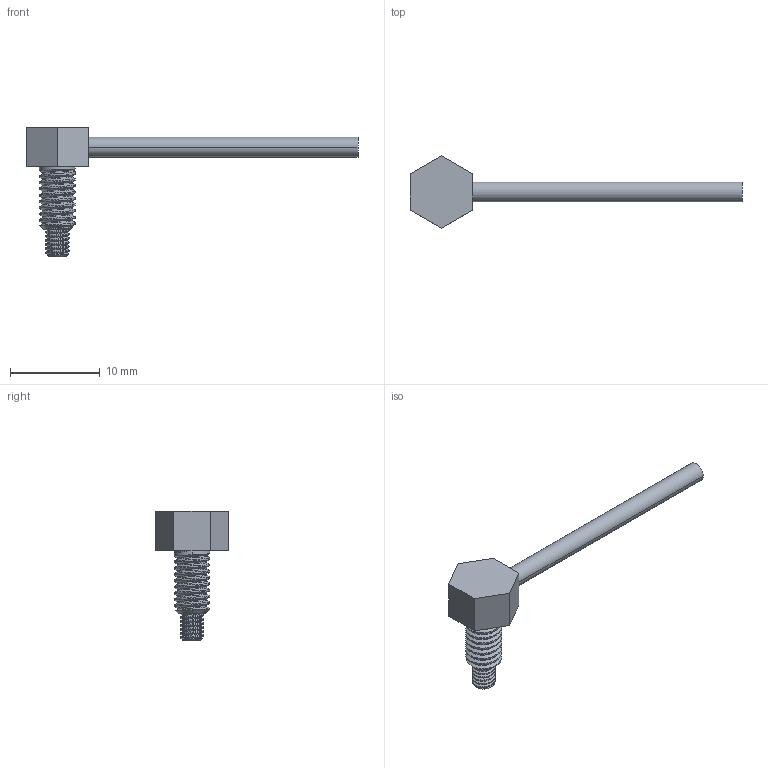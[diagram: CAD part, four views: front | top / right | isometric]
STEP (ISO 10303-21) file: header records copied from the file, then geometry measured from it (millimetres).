
FILE_DESCRIPTION (( 'STEP AP203' ), '1' );
FILE_NAME ('FQ-77TZ_T.STEP', '2020-11-03T07:54:55', ( '' ), ( '' ), 'SwSTEP 2.0', 'SolidWorks 2020', '' );
FILE_SCHEMA (( 'CONFIG_CONTROL_DESIGN' ));
Length unit declared in the file: millimetre
Products named in the file (1): FQ-77TZ_T
Bounding box: 37 x 8.08 x 14.4 mm (x, y, z)
Volume: 388 mm3; surface area: 553.2 mm2
Topology: 1 solids, 1 shells, 63 faces, 267 edges, 211 vertices
Faces by surface type: cylinder 38, plane 13, bspline 8, cone 4
Entity records: 6636 total; most frequent: CARTESIAN_POINT 4697, ORIENTED_EDGE 534, EDGE_CURVE 267, DIRECTION 213, VERTEX_POINT 211, B_SPLINE_CURVE_WITH_KNOTS 159, AXIS2_PLACEMENT_3D 77, EDGE_LOOP 68
